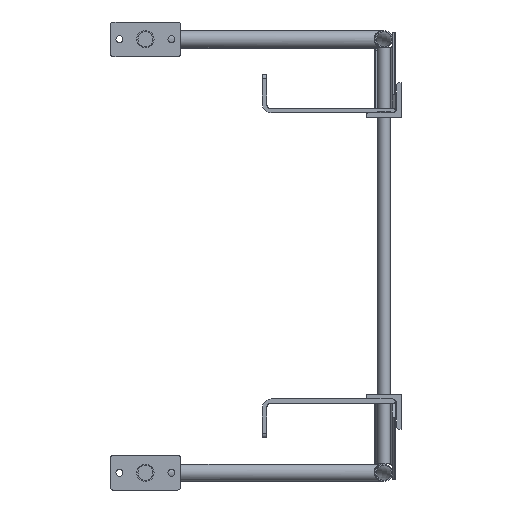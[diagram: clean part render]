
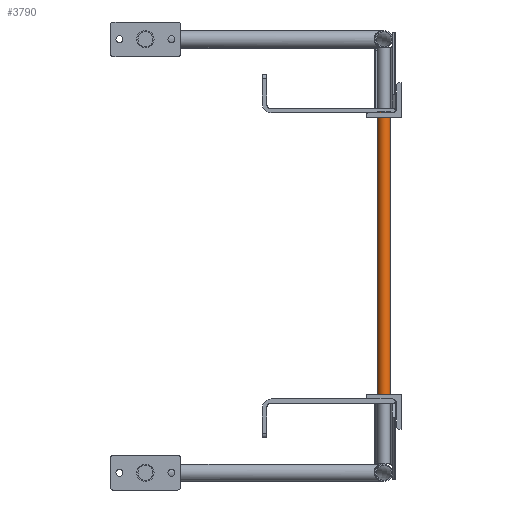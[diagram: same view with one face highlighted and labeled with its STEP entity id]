
A CAD part, front view. The second image highlights one B-rep face of the part: STEP entity #3790.
In plain terms, the highlighted cylindrical face has radius 9.525 mm (diameter 19.05 mm), a full revolution.
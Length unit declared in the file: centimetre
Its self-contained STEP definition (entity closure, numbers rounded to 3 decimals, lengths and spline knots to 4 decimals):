
#718=FACE_BOUND('',#1065,.T.);
#836=FACE_OUTER_BOUND('',#1064,.T.);
#1064=EDGE_LOOP('',(#2524));
#1065=EDGE_LOOP('',(#2525));
#1382=CIRCLE('',#4050,0.9525);
#1383=CIRCLE('',#4051,0.9525);
#1606=VERTEX_POINT('',#5885);
#1607=VERTEX_POINT('',#5887);
#1976=EDGE_CURVE('',#1606,#1606,#1382,.T.);
#1977=EDGE_CURVE('',#1607,#1607,#1383,.T.);
#2524=ORIENTED_EDGE('',*,*,#1976,.T.);
#2525=ORIENTED_EDGE('',*,*,#1977,.F.);
#3452=CYLINDRICAL_SURFACE('',#4049,0.9525);
#3790=ADVANCED_FACE('',(#836,#718),#3452,.T.);
#4049=AXIS2_PLACEMENT_3D('',#5884,#4545,#4546);
#4050=AXIS2_PLACEMENT_3D('',#5886,#4547,#4548);
#4051=AXIS2_PLACEMENT_3D('',#5888,#4549,#4550);
#4545=DIRECTION('center_axis',(0.,0.,
-1.));
#4546=DIRECTION('ref_axis',(-1.,0.,0.));
#4547=DIRECTION('center_axis',(0.,0.,
1.));
#4548=DIRECTION('ref_axis',(-1.,0.,0.));
#4549=DIRECTION('center_axis',(0.,0.,
1.));
#4550=DIRECTION('ref_axis',(-1.,0.,0.));
#5884=CARTESIAN_POINT('Origin',(-2.54,-153.3525,21.1138));
#5885=CARTESIAN_POINT('',(-1.5875,-153.3525,-20.7962));
#5886=CARTESIAN_POINT('Origin',(-2.54,-153.3525,-20.7962));
#5887=CARTESIAN_POINT('',(-1.5875,-153.3525,21.1138));
#5888=CARTESIAN_POINT('Origin',(-2.54,-153.3525,21.1138));
